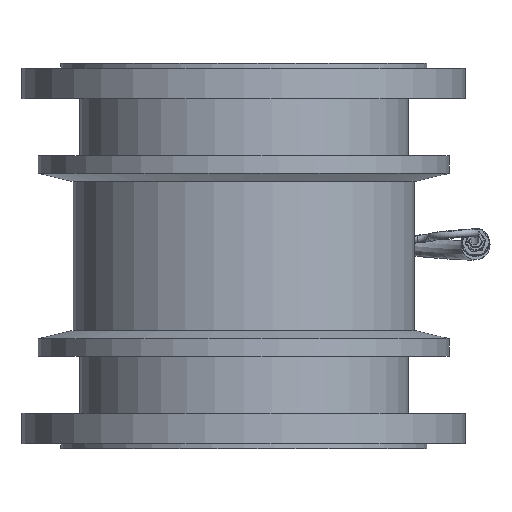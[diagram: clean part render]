
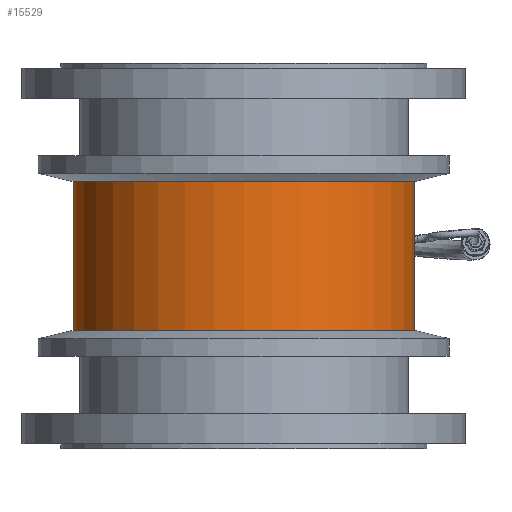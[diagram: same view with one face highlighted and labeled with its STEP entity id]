
A CAD part, front view. The second image highlights one B-rep face of the part: STEP entity #15529.
In plain terms, the highlighted cylindrical face has radius 176.842 mm (diameter 353.684 mm), a full revolution.
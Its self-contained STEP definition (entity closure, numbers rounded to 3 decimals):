
#475=B_SPLINE_CURVE_WITH_KNOTS('',3,(#31190,#31191,#31192,#31193,#31194),
 .UNSPECIFIED.,.F.,.F.,(4,1,4),(-0.554,-0.237,0.),
 .UNSPECIFIED.);
#477=B_SPLINE_CURVE_WITH_KNOTS('',3,(#31236,#31237,#31238,#31239,#31240),
 .UNSPECIFIED.,.F.,.F.,(4,1,4),(-0.554,-0.316,0.),
 .UNSPECIFIED.);
#479=B_SPLINE_CURVE_WITH_KNOTS('',3,(#31299,#31300,#31301,#31302,#31303),
 .UNSPECIFIED.,.F.,.F.,(4,1,4),(-0.551,-0.315,0.),
 .UNSPECIFIED.);
#481=B_SPLINE_CURVE_WITH_KNOTS('',3,(#31343,#31344,#31345,#31346,#31347),
 .UNSPECIFIED.,.F.,.F.,(4,1,4),(-0.551,-0.315,0.),
 .UNSPECIFIED.);
#483=B_SPLINE_CURVE_WITH_KNOTS('',3,(#31401,#31402,#31403,#31404),
 .UNSPECIFIED.,.F.,.F.,(4,4),(0.,0.016),.UNSPECIFIED.);
#484=B_SPLINE_CURVE_WITH_KNOTS('',3,(#31405,#31406,#31407,#31408,#31409,
#31410,#31411,#31412,#31413,#31414,#31415,#31416,#31417,#31418,#31419,#31420,
#31421,#31422,#31423,#31424,#31425,#31426,#31427,#31428,#31429,#31430,#31431,
#31432,#31433,#31434,#31435,#31436,#31437,#31438),.UNSPECIFIED.,.F.,.F.,
(4,2,2,2,2,2,2,2,2,2,2,2,2,2,2,2,4),(0.016,0.151,
0.302,0.453,0.604,0.754,
0.905,1.056,1.207,1.358,1.51,
1.66,1.811,1.962,2.113,2.264,
2.416),.UNSPECIFIED.);
#661=FACE_BOUND('',#5629,.T.);
#662=FACE_BOUND('',#5630,.T.);
#2238=LINE('',#31206,#3376);
#2240=LINE('',#31313,#3378);
#2249=LINE('',#31397,#3387);
#3376=VECTOR('',#21918,10.);
#3378=VECTOR('',#21934,10.);
#3387=VECTOR('',#21965,176.842);
#3706=CYLINDRICAL_SURFACE('',#17347,176.842);
#4578=FACE_OUTER_BOUND('',#5628,.T.);
#5628=EDGE_LOOP('',(#14282,#14283,#14284,#14285));
#5629=EDGE_LOOP('',(#14286,#14287));
#5630=EDGE_LOOP('',(#14288,#14289,#14290,#14291,#14292,#14293,#14294,#14295));
#6400=CIRCLE('',#17333,176.842);
#6405=CIRCLE('',#17339,176.842);
#6407=CIRCLE('',#17348,176.842);
#6408=CIRCLE('',#17349,176.842);
#7762=VERTEX_POINT('',#31187);
#7763=VERTEX_POINT('',#31189);
#7766=VERTEX_POINT('',#31204);
#7768=VERTEX_POINT('',#31234);
#7770=VERTEX_POINT('',#31267);
#7772=VERTEX_POINT('',#31297);
#7774=VERTEX_POINT('',#31311);
#7776=VERTEX_POINT('',#31341);
#7782=VERTEX_POINT('',#31394);
#7783=VERTEX_POINT('',#31396);
#7784=VERTEX_POINT('',#31399);
#7785=VERTEX_POINT('',#31400);
#9938=EDGE_CURVE('',#7762,#7763,#475,.T.);
#9942=EDGE_CURVE('',#7766,#7762,#2238,.T.);
#9945=EDGE_CURVE('',#7768,#7766,#477,.T.);
#9948=EDGE_CURVE('',#7770,#7768,#6400,.T.);
#9951=EDGE_CURVE('',#7772,#7770,#479,.T.);
#9954=EDGE_CURVE('',#7774,#7772,#2240,.T.);
#9957=EDGE_CURVE('',#7776,#7774,#481,.T.);
#9959=EDGE_CURVE('',#7763,#7776,#6405,.T.);
#9970=EDGE_CURVE('',#7782,#7782,#6407,.T.);
#9971=EDGE_CURVE('',#7782,#7783,#2249,.T.);
#9972=EDGE_CURVE('',#7783,#7783,#6408,.T.);
#9973=EDGE_CURVE('',#7784,#7785,#483,.T.);
#9974=EDGE_CURVE('',#7785,#7784,#484,.T.);
#14282=ORIENTED_EDGE('',*,*,#9970,.T.);
#14283=ORIENTED_EDGE('',*,*,#9971,.T.);
#14284=ORIENTED_EDGE('',*,*,#9972,.T.);
#14285=ORIENTED_EDGE('',*,*,#9971,.F.);
#14286=ORIENTED_EDGE('',*,*,#9973,.T.);
#14287=ORIENTED_EDGE('',*,*,#9974,.T.);
#14288=ORIENTED_EDGE('',*,*,#9938,.F.);
#14289=ORIENTED_EDGE('',*,*,#9942,.F.);
#14290=ORIENTED_EDGE('',*,*,#9945,.F.);
#14291=ORIENTED_EDGE('',*,*,#9948,.F.);
#14292=ORIENTED_EDGE('',*,*,#9951,.F.);
#14293=ORIENTED_EDGE('',*,*,#9954,.F.);
#14294=ORIENTED_EDGE('',*,*,#9957,.F.);
#14295=ORIENTED_EDGE('',*,*,#9959,.F.);
#15529=ADVANCED_FACE('',(#4578,#661,#662),#3706,.T.);
#17333=AXIS2_PLACEMENT_3D('',#31269,#21924,#21925);
#17339=AXIS2_PLACEMENT_3D('',#31373,#21938,#21939);
#17347=AXIS2_PLACEMENT_3D('',#31393,#21961,#21962);
#17348=AXIS2_PLACEMENT_3D('',#31395,#21963,#21964);
#17349=AXIS2_PLACEMENT_3D('',#31398,#21966,#21967);
#21918=DIRECTION('',(0.,0.,1.));
#21924=DIRECTION('center_axis',(0.,0.,
1.));
#21925=DIRECTION('ref_axis',(0.,1.,0.));
#21934=DIRECTION('',(0.,0.,-1.));
#21938=DIRECTION('center_axis',(0.,0.,
-1.));
#21939=DIRECTION('ref_axis',(0.,1.,0.));
#21961=DIRECTION('center_axis',(0.,0.,
1.));
#21962=DIRECTION('ref_axis',(0.,1.,0.));
#21963=DIRECTION('center_axis',(0.,0.,
-1.));
#21964=DIRECTION('ref_axis',(1.,0.,0.));
#21965=DIRECTION('',(0.,0.,-1.));
#21966=DIRECTION('center_axis',(0.,0.,
1.));
#21967=DIRECTION('ref_axis',(1.,0.,0.));
#31187=CARTESIAN_POINT('',(-401.273,244.078,307.146));
#31189=CARTESIAN_POINT('',(-397.803,244.673,310.646));
#31190=CARTESIAN_POINT('Ctrl Pts',(-401.273,244.078,307.146));
#31191=CARTESIAN_POINT('Ctrl Pts',(-401.273,244.078,308.2));
#31192=CARTESIAN_POINT('Ctrl Pts',(-400.386,244.241,310.017));
#31193=CARTESIAN_POINT('Ctrl Pts',(-398.577,244.548,310.646));
#31194=CARTESIAN_POINT('Ctrl Pts',(-397.803,244.673,310.646));
#31204=CARTESIAN_POINT('',(-401.273,244.082,261.146));
#31206=CARTESIAN_POINT('',(-401.273,244.09,174.423));
#31234=CARTESIAN_POINT('',(-397.803,244.678,257.646));
#31236=CARTESIAN_POINT('Ctrl Pts',(-397.803,244.678,257.646));
#31237=CARTESIAN_POINT('Ctrl Pts',(-398.577,244.553,257.646));
#31238=CARTESIAN_POINT('Ctrl Pts',(-400.386,244.246,258.274));
#31239=CARTESIAN_POINT('Ctrl Pts',(-401.273,244.082,260.091));
#31240=CARTESIAN_POINT('Ctrl Pts',(-401.273,244.082,261.146));
#31267=CARTESIAN_POINT('',(-352.189,246.07,257.646));
#31269=CARTESIAN_POINT('Origin',(-369.647,70.092,257.637));
#31297=CARTESIAN_POINT('',(-348.719,245.691,261.146));
#31299=CARTESIAN_POINT('Ctrl Pts',(-348.719,245.691,261.146));
#31300=CARTESIAN_POINT('Ctrl Pts',(-348.719,245.691,260.358));
#31301=CARTESIAN_POINT('Ctrl Pts',(-349.36,245.769,258.52));
#31302=CARTESIAN_POINT('Ctrl Pts',(-351.153,245.967,257.646));
#31303=CARTESIAN_POINT('Ctrl Pts',(-352.189,246.07,257.646));
#31311=CARTESIAN_POINT('',(-348.719,245.686,307.146));
#31313=CARTESIAN_POINT('',(-348.719,245.698,174.423));
#31341=CARTESIAN_POINT('',(-352.189,246.065,310.646));
#31343=CARTESIAN_POINT('Ctrl Pts',(-352.189,246.065,310.646));
#31344=CARTESIAN_POINT('Ctrl Pts',(-351.412,245.988,310.646));
#31345=CARTESIAN_POINT('Ctrl Pts',(-349.597,245.793,310.01));
#31346=CARTESIAN_POINT('Ctrl Pts',(-348.719,245.686,308.196));
#31347=CARTESIAN_POINT('Ctrl Pts',(-348.719,245.686,307.146));
#31373=CARTESIAN_POINT('Origin',(-369.647,70.087,310.637));
#31393=CARTESIAN_POINT('Origin',(-369.647,70.099,174.407));
#31394=CARTESIAN_POINT('',(-369.647,-106.757,329.402));
#31395=CARTESIAN_POINT('Origin',(-369.647,70.085,329.407));
#31396=CARTESIAN_POINT('',(-369.647,-106.743,174.402));
#31397=CARTESIAN_POINT('',(-369.647,-106.743,174.391));
#31398=CARTESIAN_POINT('Origin',(-369.647,70.099,174.407));
#31399=CARTESIAN_POINT('',(-192.919,76.431,269.178));
#31400=CARTESIAN_POINT('',(-192.918,76.428,269.012));
#31401=CARTESIAN_POINT('Ctrl Pts',(-192.919,76.431,269.178));
#31402=CARTESIAN_POINT('Ctrl Pts',(-192.919,76.431,269.123));
#31403=CARTESIAN_POINT('Ctrl Pts',(-192.919,76.43,269.068));
#31404=CARTESIAN_POINT('Ctrl Pts',(-192.918,76.428,269.012));
#31405=CARTESIAN_POINT('Ctrl Pts',(-192.918,76.428,269.012));
#31406=CARTESIAN_POINT('Ctrl Pts',(-192.918,76.409,268.558));
#31407=CARTESIAN_POINT('Ctrl Pts',(-192.914,76.309,268.083));
#31408=CARTESIAN_POINT('Ctrl Pts',(-192.901,75.923,267.148));
#31409=CARTESIAN_POINT('Ctrl Pts',(-192.891,75.615,266.696));
#31410=CARTESIAN_POINT('Ctrl Pts',(-192.87,74.904,265.985));
#31411=CARTESIAN_POINT('Ctrl Pts',(-192.858,74.454,265.677));
#31412=CARTESIAN_POINT('Ctrl Pts',(-192.836,73.469,265.269));
#31413=CARTESIAN_POINT('Ctrl Pts',(-192.827,72.934,265.169));
#31414=CARTESIAN_POINT('Ctrl Pts',(-192.814,71.93,265.17));
#31415=CARTESIAN_POINT('Ctrl Pts',(-192.809,71.394,265.271));
#31416=CARTESIAN_POINT('Ctrl Pts',(-192.804,70.409,265.68));
#31417=CARTESIAN_POINT('Ctrl Pts',(-192.805,69.96,265.989));
#31418=CARTESIAN_POINT('Ctrl Pts',(-192.806,69.249,266.701));
#31419=CARTESIAN_POINT('Ctrl Pts',(-192.808,68.941,267.153));
#31420=CARTESIAN_POINT('Ctrl Pts',(-192.812,68.532,268.142));
#31421=CARTESIAN_POINT('Ctrl Pts',(-192.813,68.432,268.68));
#31422=CARTESIAN_POINT('Ctrl Pts',(-192.813,68.432,269.688));
#31423=CARTESIAN_POINT('Ctrl Pts',(-192.812,68.532,270.225));
#31424=CARTESIAN_POINT('Ctrl Pts',(-192.808,68.94,271.215));
#31425=CARTESIAN_POINT('Ctrl Pts',(-192.807,69.247,271.667));
#31426=CARTESIAN_POINT('Ctrl Pts',(-192.805,69.958,272.381));
#31427=CARTESIAN_POINT('Ctrl Pts',(-192.804,70.407,272.69));
#31428=CARTESIAN_POINT('Ctrl Pts',(-192.809,71.393,273.1));
#31429=CARTESIAN_POINT('Ctrl Pts',(-192.814,71.929,273.201));
#31430=CARTESIAN_POINT('Ctrl Pts',(-192.827,72.934,273.2));
#31431=CARTESIAN_POINT('Ctrl Pts',(-192.836,73.47,273.098));
#31432=CARTESIAN_POINT('Ctrl Pts',(-192.858,74.456,272.687));
#31433=CARTESIAN_POINT('Ctrl Pts',(-192.87,74.905,272.377));
#31434=CARTESIAN_POINT('Ctrl Pts',(-192.891,75.615,271.662));
#31435=CARTESIAN_POINT('Ctrl Pts',(-192.901,75.923,271.21));
#31436=CARTESIAN_POINT('Ctrl Pts',(-192.915,76.331,270.22));
#31437=CARTESIAN_POINT('Ctrl Pts',(-192.919,76.431,269.682));
#31438=CARTESIAN_POINT('Ctrl Pts',(-192.919,76.431,269.178));
